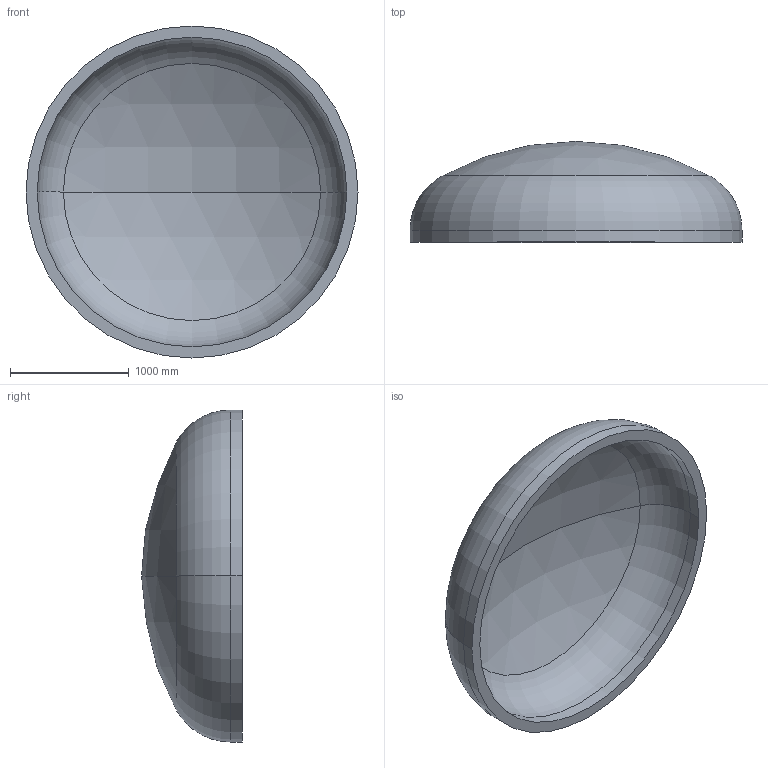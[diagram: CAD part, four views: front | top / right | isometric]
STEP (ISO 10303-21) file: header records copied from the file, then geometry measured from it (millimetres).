
FILE_DESCRIPTION (( 'STEP AP203' ), '1' );
FILE_NAME ('DIN 28013 Korbbogenform_-_Boden DIN 28013 - 2800 x 100 - I - s=94.step', '2016-07-01T17:16:12', ( '' ), ( '' ), 'SwSTEP 2.0', 'SolidWorks 2013', '' );
FILE_SCHEMA (( 'CONFIG_CONTROL_DESIGN' ));
Length unit declared in the file: millimetre
Products named in the file (1): DIN 28013 Korbbogenform_-_Boden DIN 28013 - 2800 x 100 - I - s=94
Bounding box: 2800 x 850.1 x 2800 mm (x, y, z)
Volume: 846819601 mm3; surface area: 18835046.7 mm2
Topology: 1 solids, 1 shells, 13 faces, 24 edges, 14 vertices
Faces by surface type: torus 4, cylinder 4, sphere 4, plane 1
Entity records: 407 total; most frequent: DIRECTION 72, CARTESIAN_POINT 52, ORIENTED_EDGE 48, AXIS2_PLACEMENT_3D 34, EDGE_CURVE 24, CIRCLE 20, VERTEX_POINT 14, EDGE_LOOP 14
